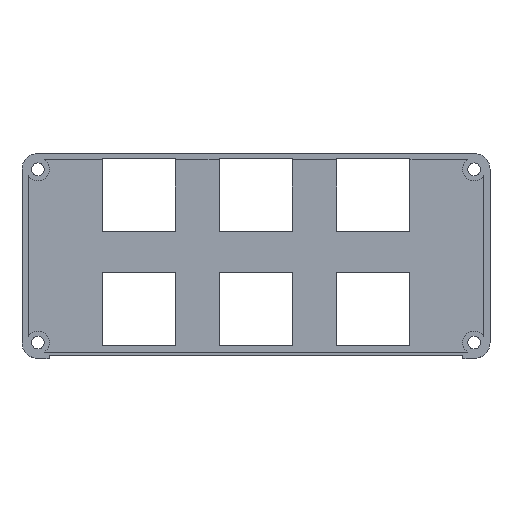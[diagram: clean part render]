
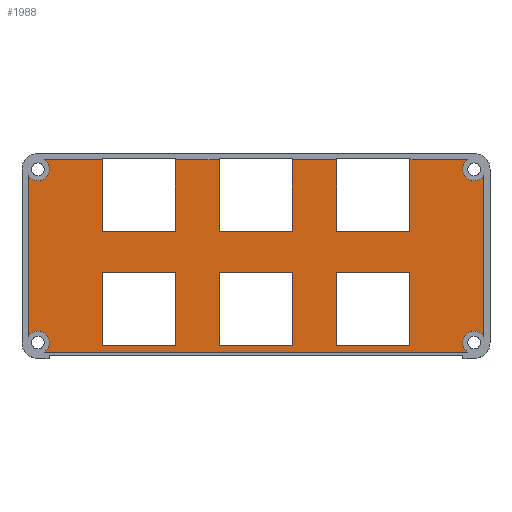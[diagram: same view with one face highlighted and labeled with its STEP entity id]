
A CAD part, top view. The second image highlights one B-rep face of the part: STEP entity #1988.
In plain terms, the highlighted planar face has unit normal (0, 0, 1).
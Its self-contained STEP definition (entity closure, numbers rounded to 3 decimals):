
#130=FACE_BOUND('',#320,.T.);
#131=FACE_BOUND('',#321,.T.);
#132=FACE_BOUND('',#322,.T.);
#148=CIRCLE('',#2107,3.6);
#149=CIRCLE('',#2108,3.6);
#150=CIRCLE('',#2109,3.6);
#151=CIRCLE('',#2110,3.6);
#222=FACE_OUTER_BOUND('',#319,.T.);
#319=EDGE_LOOP('',(#1516,#1517,#1518,#1519,#1520,#1521,#1522,#1523,#1524,
#1525,#1526,#1527,#1528,#1529,#1530,#1531,#1532,#1533,#1534,#1535));
#320=EDGE_LOOP('',(#1536,#1537,#1538,#1539));
#321=EDGE_LOOP('',(#1540,#1541,#1542,#1543));
#322=EDGE_LOOP('',(#1544,#1545,#1546,#1547));
#458=LINE('',#2864,#704);
#462=LINE('',#2873,#708);
#464=LINE('',#2879,#710);
#470=LINE('',#2891,#716);
#472=LINE('',#2897,#718);
#478=LINE('',#2909,#724);
#509=LINE('',#2967,#755);
#510=LINE('',#2969,#756);
#511=LINE('',#2970,#757);
#512=LINE('',#2972,#758);
#513=LINE('',#2974,#759);
#514=LINE('',#2975,#760);
#515=LINE('',#2977,#761);
#516=LINE('',#2979,#762);
#517=LINE('',#2983,#763);
#518=LINE('',#2987,#764);
#519=LINE('',#2991,#765);
#520=LINE('',#2995,#766);
#521=LINE('',#2996,#767);
#522=LINE('',#2998,#768);
#523=LINE('',#3000,#769);
#524=LINE('',#3001,#770);
#525=LINE('',#3003,#771);
#526=LINE('',#3005,#772);
#527=LINE('',#3006,#773);
#528=LINE('',#3008,#774);
#529=LINE('',#3010,#775);
#530=LINE('',#3011,#776);
#704=VECTOR('',#2334,10.);
#708=VECTOR('',#2340,10.);
#710=VECTOR('',#2344,10.);
#716=VECTOR('',#2352,10.);
#718=VECTOR('',#2356,10.);
#724=VECTOR('',#2364,10.);
#755=VECTOR('',#2413,10.);
#756=VECTOR('',#2414,10.);
#757=VECTOR('',#2415,10.);
#758=VECTOR('',#2416,10.);
#759=VECTOR('',#2417,10.);
#760=VECTOR('',#2418,10.);
#761=VECTOR('',#2419,10.);
#762=VECTOR('',#2420,10.);
#763=VECTOR('',#2423,10.);
#764=VECTOR('',#2426,10.);
#765=VECTOR('',#2429,10.);
#766=VECTOR('',#2432,10.);
#767=VECTOR('',#2433,10.);
#768=VECTOR('',#2434,10.);
#769=VECTOR('',#2435,10.);
#770=VECTOR('',#2436,10.);
#771=VECTOR('',#2437,10.);
#772=VECTOR('',#2438,10.);
#773=VECTOR('',#2439,10.);
#774=VECTOR('',#2440,10.);
#775=VECTOR('',#2441,10.);
#776=VECTOR('',#2442,10.);
#928=VERTEX_POINT('',#2857);
#931=VERTEX_POINT('',#2862);
#932=VERTEX_POINT('',#2866);
#935=VERTEX_POINT('',#2871);
#936=VERTEX_POINT('',#2875);
#938=VERTEX_POINT('',#2878);
#940=VERTEX_POINT('',#2884);
#943=VERTEX_POINT('',#2889);
#944=VERTEX_POINT('',#2893);
#946=VERTEX_POINT('',#2896);
#948=VERTEX_POINT('',#2902);
#951=VERTEX_POINT('',#2907);
#969=VERTEX_POINT('',#2966);
#970=VERTEX_POINT('',#2968);
#971=VERTEX_POINT('',#2971);
#972=VERTEX_POINT('',#2973);
#973=VERTEX_POINT('',#2976);
#974=VERTEX_POINT('',#2978);
#975=VERTEX_POINT('',#2980);
#976=VERTEX_POINT('',#2982);
#977=VERTEX_POINT('',#2984);
#978=VERTEX_POINT('',#2986);
#979=VERTEX_POINT('',#2988);
#980=VERTEX_POINT('',#2990);
#981=VERTEX_POINT('',#2992);
#982=VERTEX_POINT('',#2994);
#983=VERTEX_POINT('',#2997);
#984=VERTEX_POINT('',#2999);
#985=VERTEX_POINT('',#3002);
#986=VERTEX_POINT('',#3004);
#987=VERTEX_POINT('',#3007);
#988=VERTEX_POINT('',#3009);
#1132=EDGE_CURVE('',#928,#931,#458,.T.);
#1136=EDGE_CURVE('',#932,#935,#462,.T.);
#1138=EDGE_CURVE('',#938,#936,#464,.T.);
#1144=EDGE_CURVE('',#940,#943,#470,.T.);
#1146=EDGE_CURVE('',#946,#944,#472,.T.);
#1152=EDGE_CURVE('',#948,#951,#478,.T.);
#1183=EDGE_CURVE('',#951,#969,#509,.T.);
#1184=EDGE_CURVE('',#970,#969,#510,.T.);
#1185=EDGE_CURVE('',#970,#932,#511,.T.);
#1186=EDGE_CURVE('',#935,#971,#512,.T.);
#1187=EDGE_CURVE('',#972,#971,#513,.T.);
#1188=EDGE_CURVE('',#972,#928,#514,.T.);
#1189=EDGE_CURVE('',#931,#973,#515,.T.);
#1190=EDGE_CURVE('',#974,#973,#516,.T.);
#1191=EDGE_CURVE('',#975,#974,#148,.T.);
#1192=EDGE_CURVE('',#976,#975,#517,.T.);
#1193=EDGE_CURVE('',#977,#976,#149,.T.);
#1194=EDGE_CURVE('',#978,#977,#518,.T.);
#1195=EDGE_CURVE('',#979,#978,#150,.T.);
#1196=EDGE_CURVE('',#980,#979,#519,.T.);
#1197=EDGE_CURVE('',#981,#980,#151,.T.);
#1198=EDGE_CURVE('',#982,#981,#520,.T.);
#1199=EDGE_CURVE('',#982,#948,#521,.T.);
#1200=EDGE_CURVE('',#944,#983,#522,.T.);
#1201=EDGE_CURVE('',#983,#984,#523,.T.);
#1202=EDGE_CURVE('',#984,#946,#524,.T.);
#1203=EDGE_CURVE('',#936,#985,#525,.T.);
#1204=EDGE_CURVE('',#985,#986,#526,.T.);
#1205=EDGE_CURVE('',#986,#938,#527,.T.);
#1206=EDGE_CURVE('',#943,#987,#528,.T.);
#1207=EDGE_CURVE('',#987,#988,#529,.T.);
#1208=EDGE_CURVE('',#988,#940,#530,.T.);
#1516=ORIENTED_EDGE('',*,*,#1152,.T.);
#1517=ORIENTED_EDGE('',*,*,#1183,.T.);
#1518=ORIENTED_EDGE('',*,*,#1184,.F.);
#1519=ORIENTED_EDGE('',*,*,#1185,.T.);
#1520=ORIENTED_EDGE('',*,*,#1136,.T.);
#1521=ORIENTED_EDGE('',*,*,#1186,.T.);
#1522=ORIENTED_EDGE('',*,*,#1187,.F.);
#1523=ORIENTED_EDGE('',*,*,#1188,.T.);
#1524=ORIENTED_EDGE('',*,*,#1132,.T.);
#1525=ORIENTED_EDGE('',*,*,#1189,.T.);
#1526=ORIENTED_EDGE('',*,*,#1190,.F.);
#1527=ORIENTED_EDGE('',*,*,#1191,.F.);
#1528=ORIENTED_EDGE('',*,*,#1192,.F.);
#1529=ORIENTED_EDGE('',*,*,#1193,.F.);
#1530=ORIENTED_EDGE('',*,*,#1194,.F.);
#1531=ORIENTED_EDGE('',*,*,#1195,.F.);
#1532=ORIENTED_EDGE('',*,*,#1196,.F.);
#1533=ORIENTED_EDGE('',*,*,#1197,.F.);
#1534=ORIENTED_EDGE('',*,*,#1198,.F.);
#1535=ORIENTED_EDGE('',*,*,#1199,.T.);
#1536=ORIENTED_EDGE('',*,*,#1200,.T.);
#1537=ORIENTED_EDGE('',*,*,#1201,.T.);
#1538=ORIENTED_EDGE('',*,*,#1202,.T.);
#1539=ORIENTED_EDGE('',*,*,#1146,.T.);
#1540=ORIENTED_EDGE('',*,*,#1203,.T.);
#1541=ORIENTED_EDGE('',*,*,#1204,.T.);
#1542=ORIENTED_EDGE('',*,*,#1205,.T.);
#1543=ORIENTED_EDGE('',*,*,#1138,.T.);
#1544=ORIENTED_EDGE('',*,*,#1144,.T.);
#1545=ORIENTED_EDGE('',*,*,#1206,.T.);
#1546=ORIENTED_EDGE('',*,*,#1207,.T.);
#1547=ORIENTED_EDGE('',*,*,#1208,.T.);
#1907=PLANE('',#2106);
#1988=ADVANCED_FACE('',(#222,#130,#131,#132),#1907,.T.);
#2106=AXIS2_PLACEMENT_3D('',#2965,#2411,#2412);
#2107=AXIS2_PLACEMENT_3D('',#2981,#2421,#2422);
#2108=AXIS2_PLACEMENT_3D('',#2985,#2424,#2425);
#2109=AXIS2_PLACEMENT_3D('',#2989,#2427,#2428);
#2110=AXIS2_PLACEMENT_3D('',#2993,#2430,#2431);
#2334=DIRECTION('',(-1.,0.,0.));
#2340=DIRECTION('',(-1.,0.,0.));
#2344=DIRECTION('',(1.,0.,0.));
#2352=DIRECTION('',(1.,0.,0.));
#2356=DIRECTION('',(1.,0.,0.));
#2364=DIRECTION('',(-1.,0.,0.));
#2411=DIRECTION('center_axis',(0.,0.,1.));
#2412=DIRECTION('ref_axis',(1.,0.,0.));
#2413=DIRECTION('',(0.,1.,0.));
#2414=DIRECTION('',(1.,0.,0.));
#2415=DIRECTION('',(0.,-1.,0.));
#2416=DIRECTION('',(0.,1.,0.));
#2417=DIRECTION('',(1.,0.,0.));
#2418=DIRECTION('',(0.,-1.,0.));
#2419=DIRECTION('',(0.,1.,0.));
#2420=DIRECTION('',(1.,0.,0.));
#2421=DIRECTION('center_axis',(0.,0.,1.));
#2422=DIRECTION('ref_axis',(1.,0.,0.));
#2423=DIRECTION('',(0.,1.,0.));
#2424=DIRECTION('center_axis',(0.,0.,1.));
#2425=DIRECTION('ref_axis',(1.,0.,0.));
#2426=DIRECTION('',(-1.,0.,0.));
#2427=DIRECTION('center_axis',(0.,0.,1.));
#2428=DIRECTION('ref_axis',(1.,0.,0.));
#2429=DIRECTION('',(0.,-1.,0.));
#2430=DIRECTION('center_axis',(0.,0.,1.));
#2431=DIRECTION('ref_axis',(1.,0.,0.));
#2432=DIRECTION('',(1.,0.,0.));
#2433=DIRECTION('',(0.,-1.,0.));
#2434=DIRECTION('',(0.,-1.,0.));
#2435=DIRECTION('',(-1.,0.,0.));
#2436=DIRECTION('',(0.,1.,0.));
#2437=DIRECTION('',(0.,-1.,0.));
#2438=DIRECTION('',(-1.,0.,0.));
#2439=DIRECTION('',(0.,1.,0.));
#2440=DIRECTION('',(0.,-1.,0.));
#2441=DIRECTION('',(-1.,0.,0.));
#2442=DIRECTION('',(0.,1.,0.));
#2857=CARTESIAN_POINT('',(48.25,40.,0.));
#2862=CARTESIAN_POINT('',(25.25,40.,0.));
#2864=CARTESIAN_POINT('',(138.66,40.,0.));
#2866=CARTESIAN_POINT('',(85.,40.,0.));
#2871=CARTESIAN_POINT('',(62.,40.,0.));
#2873=CARTESIAN_POINT('',(138.66,40.,0.));
#2875=CARTESIAN_POINT('',(85.056,27.,0.));
#2878=CARTESIAN_POINT('',(62.056,27.,0.));
#2879=CARTESIAN_POINT('',(8.5,27.,0.));
#2884=CARTESIAN_POINT('',(25.25,27.,0.));
#2889=CARTESIAN_POINT('',(48.25,27.,0.));
#2891=CARTESIAN_POINT('',(8.5,27.,0.));
#2893=CARTESIAN_POINT('',(122.,27.,0.));
#2896=CARTESIAN_POINT('',(99.,27.,0.));
#2897=CARTESIAN_POINT('',(8.5,27.,0.));
#2902=CARTESIAN_POINT('',(122.,40.,0.));
#2907=CARTESIAN_POINT('',(99.,40.,0.));
#2909=CARTESIAN_POINT('',(138.66,40.,0.));
#2965=CARTESIAN_POINT('Origin',(73.58,32.25,0.));
#2966=CARTESIAN_POINT('',(99.,62.5,0.));
#2967=CARTESIAN_POINT('',(99.,40.,0.));
#2968=CARTESIAN_POINT('',(85.,62.5,0.));
#2969=CARTESIAN_POINT('',(6.99,62.5,0.));
#2970=CARTESIAN_POINT('',(85.,63.,0.));
#2971=CARTESIAN_POINT('',(62.,62.5,0.));
#2972=CARTESIAN_POINT('',(62.,40.,0.));
#2973=CARTESIAN_POINT('',(48.25,62.5,0.));
#2974=CARTESIAN_POINT('',(6.99,62.5,0.));
#2975=CARTESIAN_POINT('',(48.25,63.,0.));
#2976=CARTESIAN_POINT('',(25.25,62.5,0.));
#2977=CARTESIAN_POINT('',(25.25,40.,0.));
#2978=CARTESIAN_POINT('',(6.99,62.5,0.));
#2979=CARTESIAN_POINT('',(6.99,62.5,0.));
#2980=CARTESIAN_POINT('',(2.,57.51,0.));
#2981=CARTESIAN_POINT('Origin',(5.,59.5,0.));
#2982=CARTESIAN_POINT('',(2.,6.99,0.));
#2983=CARTESIAN_POINT('',(2.,6.99,0.));
#2984=CARTESIAN_POINT('',(6.99,2.,0.));
#2985=CARTESIAN_POINT('Origin',(5.,5.,0.));
#2986=CARTESIAN_POINT('',(140.17,2.,0.));
#2987=CARTESIAN_POINT('',(140.17,2.,0.));
#2988=CARTESIAN_POINT('',(145.16,6.99,0.));
#2989=CARTESIAN_POINT('Origin',(142.16,5.,0.));
#2990=CARTESIAN_POINT('',(145.16,57.51,0.));
#2991=CARTESIAN_POINT('',(145.16,57.51,0.));
#2992=CARTESIAN_POINT('',(140.17,62.5,0.));
#2993=CARTESIAN_POINT('Origin',(142.16,59.5,0.));
#2994=CARTESIAN_POINT('',(122.,62.5,0.));
#2995=CARTESIAN_POINT('',(6.99,62.5,0.));
#2996=CARTESIAN_POINT('',(122.,63.,0.));
#2997=CARTESIAN_POINT('',(122.,4.,0.));
#2998=CARTESIAN_POINT('',(122.,27.,0.));
#2999=CARTESIAN_POINT('',(99.,4.,0.));
#3000=CARTESIAN_POINT('',(122.,4.,0.));
#3001=CARTESIAN_POINT('',(99.,4.,0.));
#3002=CARTESIAN_POINT('',(85.056,4.,0.));
#3003=CARTESIAN_POINT('',(85.056,27.,0.));
#3004=CARTESIAN_POINT('',(62.056,4.,0.));
#3005=CARTESIAN_POINT('',(85.056,4.,0.));
#3006=CARTESIAN_POINT('',(62.056,4.,0.));
#3007=CARTESIAN_POINT('',(48.25,4.,0.));
#3008=CARTESIAN_POINT('',(48.25,27.,0.));
#3009=CARTESIAN_POINT('',(25.25,4.,0.));
#3010=CARTESIAN_POINT('',(48.25,4.,0.));
#3011=CARTESIAN_POINT('',(25.25,4.,0.));
